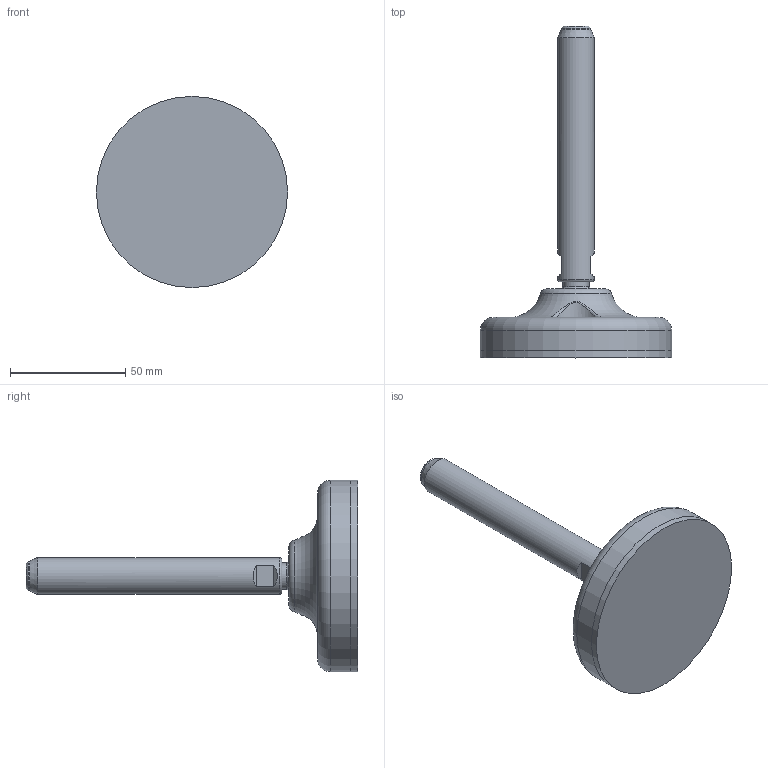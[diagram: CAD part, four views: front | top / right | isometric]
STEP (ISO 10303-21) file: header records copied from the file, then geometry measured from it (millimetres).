
FILE_DESCRIPTION(/* description */ ('ADJUSTABLE FOOT M16X100'),/* implementation_level */ '2;1');
FILE_NAME(/* name */ '500-1120.stp',/* time_stamp */ '2022-09-16T08:19:03+02:00',/* author */ ('MD'),/* organization */ ('CARRYLINE'),/* preprocessor_version */ 'ST-DEVELOPER v19.2',/* originating_system */ 'Autodesk Inventor 2023',/* authorisation */ '');
FILE_SCHEMA (('AUTOMOTIVE_DESIGN { 1 0 10303 214 3 1 1 }'));
Length unit declared in the file: millimetre
Products named in the file (1): 500-1120
Bounding box: 83 x 144 x 83 mm (x, y, z)
Volume: 127941.6 mm3; surface area: 22358.4 mm2
Topology: 2 solids, 2 shells, 29 faces, 61 edges, 39 vertices
Faces by surface type: plane 11, cylinder 8, torus 4, bspline 2, sphere 2, cone 2
Full cylindrical faces by diameter (mm): 11.5 x1, 13 x1, 14 x1, 16 x1, 83 x2
Entity records: 1942 total; most frequent: CARTESIAN_POINT 1270, DIRECTION 132, ORIENTED_EDGE 114, AXIS2_PLACEMENT_3D 58, EDGE_CURVE 57, VERTEX_POINT 39, EDGE_LOOP 36, FACE_OUTER_BOUND 29
